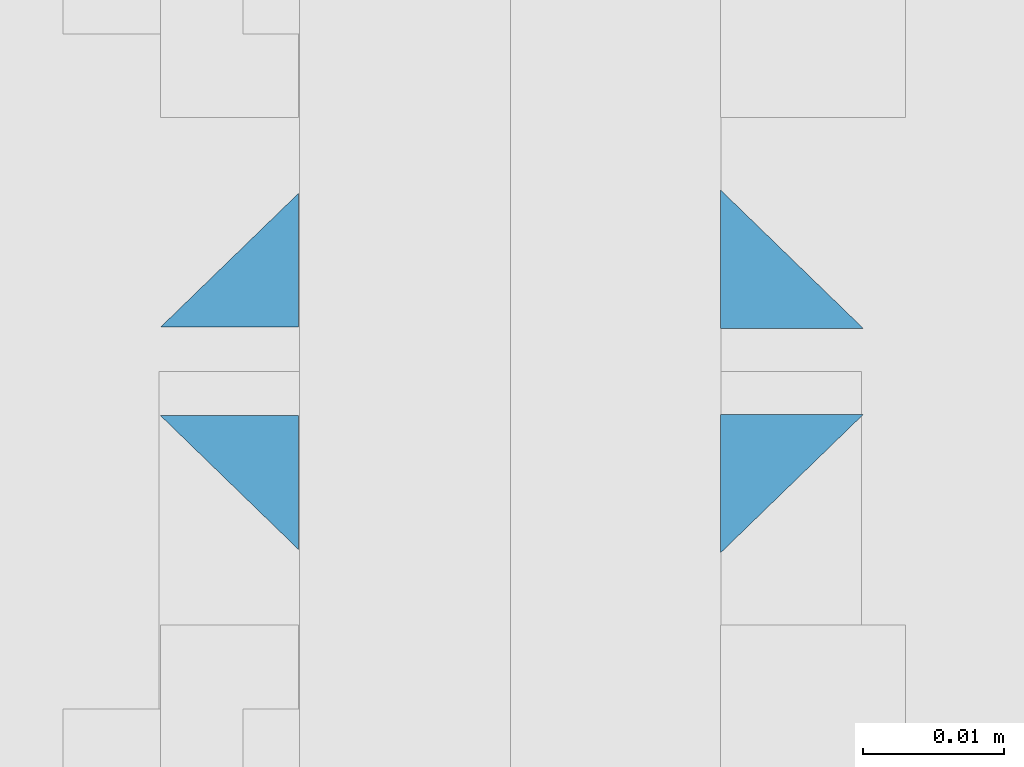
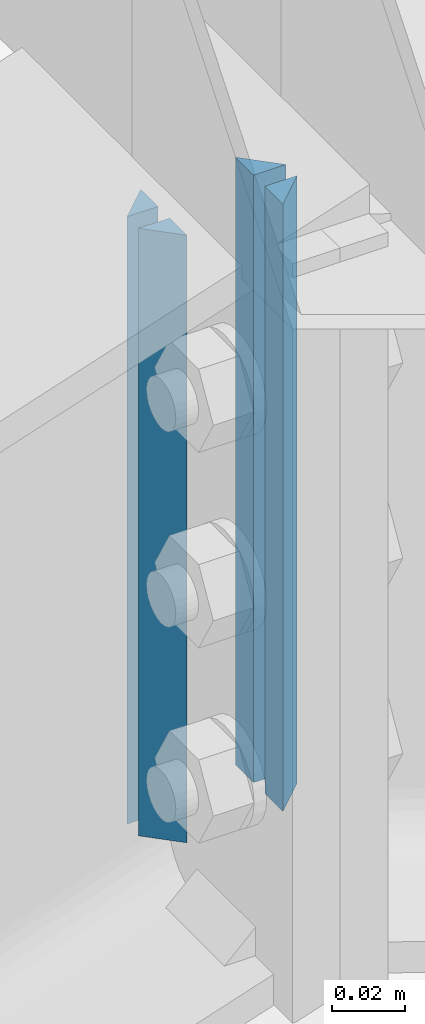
# One storey, part 11 of 53: 6 fasteners.
"""IFC4 building model written with IfcOpenShell, lengths in metres."""

from ifc_helpers import new_model, si_unit, frame, origin_with_axes, place, context, project, spatial, polyline, outline, extrude, type_object, element, save


model = new_model("IFC4")

# Units and contexts
model_context = context("Model", 3, precision=1e-05, world=origin_with_axes())
ifc_project = project(units=[si_unit("LENGTHUNIT", "METRE"), si_unit("AREAUNIT", "SQUARE_METRE"), si_unit("VOLUMEUNIT", "CUBIC_METRE"), si_unit("MASSUNIT", "GRAM", prefix="KILO"), si_unit("TIMEUNIT", "SECOND"), si_unit("PLANEANGLEUNIT", "RADIAN"), si_unit("SOLIDANGLEUNIT", "STERADIAN"), si_unit("THERMODYNAMICTEMPERATUREUNIT", "DEGREE_CELSIUS")], contexts=[model_context])

# Site, building, storey
placement_1 = place(None, origin_with_axes())
site = spatial("IfcSite", under=ifc_project, at=placement_1, Name="Italia", CompositionType="ELEMENT")
building = spatial("IfcBuilding", under=site, at=placement_1, Name="Capannone", CompositionType="ELEMENT")
storey_placement = place(None, frame((0.0, 0.0, 5.550000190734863), z_axis=(0.0, 0.0, 1.0), x_axis=(1.0, 0.0, 0.0)))
storey = spatial("IfcBuildingStorey", under=building, at=storey_placement, Name="Storey 1", CompositionType="ELEMENT", Elevation=5.550000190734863)

# Fasteners
fastener_type_1 = type_object("IfcFastenerType", Name="Collegamenti -1142_-1128 -1143_-1130 -1144_-1132 -1145_-1134 -1146_-1136 -1147_-1138", PredefinedType="WELD")
placement_2 = place(placement_1, origin_with_axes())
fastener_1_placement = place(placement_2, origin_with_axes())
element("IfcFastener", 1, at=fastener_1_placement, inside=storey, type_object=fastener_type_1, Name="Collegamenti -1142_-1128 -1143_-1130 -1144_-1132 -1145_-1134 -1146_-1136 -1147_-1138", context=model_context, shape_type="SweptSolid", body=[
    extrude(outline(polyline([(0.0, 0.0), (0.00986816, 0.0101738), (0.00986816, 0.0), (0.0, 0.0)])), frame((7.01495, -0.0129182, 8.07243), z_axis=(0.0, 0.0, -1.0), x_axis=(0.0, 1.0, 0.0)), (0.0, 0.0, 1.0), 0.202096),
])
fastener_type_2 = type_object("IfcFastenerType", Name="Collegamenti -1142_-1128 -1143_-1130 -1144_-1132 -1145_-1134 -1146_-1136 -1147_-1138", PredefinedType="WELD")
fastener_2_placement = place(placement_2, origin_with_axes())
element("IfcFastener", 2, at=fastener_2_placement, inside=storey, type_object=fastener_type_2, Name="Collegamenti -1142_-1128 -1143_-1130 -1144_-1132 -1145_-1134 -1146_-1136 -1147_-1138", context=model_context, shape_type="SweptSolid", body=[
    extrude(outline(polyline([(0.0, 0.0), (-0.00986816, -0.0101738), (-0.00986816, 0.0), (0.0, 0.0)])), frame((7.01495, 0.0129181, 7.87033), z_axis=(0.0, 0.0, 1.0), x_axis=(0.0, 1.0, 0.0)), (0.0, 0.0, 1.0), 0.202096),
])
fastener_type_3 = type_object("IfcFastenerType", Name="Collegamenti -1142_-1128 -1143_-1130 -1144_-1132 -1145_-1134 -1146_-1136 -1147_-1138", PredefinedType="WELD")
fastener_3_placement = place(placement_2, origin_with_axes())
element("IfcFastener", 3, at=fastener_3_placement, inside=storey, type_object=fastener_type_3, Name="Collegamenti -1142_-1128 -1143_-1130 -1144_-1132 -1145_-1134 -1146_-1136 -1147_-1138", context=model_context, shape_type="SweptSolid", body=[
    extrude(outline(polyline([(0.0, 0.0), (0.00986816, 0.0101738), (0.00986816, 0.0), (0.0, 0.0)])), frame((7.01495, -0.0129182, 8.07243), z_axis=(0.0, 0.0, -1.0), x_axis=(0.0, 1.0, 0.0)), (0.0, 0.0, 1.0), 0.202096),
])
fastener_type_4 = type_object("IfcFastenerType", Name="Collegamenti -1142_-1128 -1143_-1130 -1144_-1132 -1145_-1134 -1146_-1136 -1147_-1138", PredefinedType="WELD")
fastener_4_placement = place(placement_2, origin_with_axes())
element("IfcFastener", 4, at=fastener_4_placement, inside=storey, type_object=fastener_type_4, Name="Collegamenti -1142_-1128 -1143_-1130 -1144_-1132 -1145_-1134 -1146_-1136 -1147_-1138", context=model_context, shape_type="SweptSolid", body=[
    extrude(outline(polyline([(0.0, 0.0), (-0.00986816, -0.0101738), (-0.00986816, 0.0), (0.0, 0.0)])), frame((7.01495, 0.0129181, 7.87033), z_axis=(0.0, 0.0, 1.0), x_axis=(0.0, 1.0, 0.0)), (0.0, 0.0, 1.0), 0.202096),
])
fastener_type_5 = type_object("IfcFastenerType", Name="Collegamenti -1142_-1128 -1143_-1130 -1144_-1132 -1145_-1134 -1146_-1136 -1147_-1138", PredefinedType="WELD")
fastener_5_placement = place(placement_2, origin_with_axes())
element("IfcFastener", 5, at=fastener_5_placement, inside=storey, type_object=fastener_type_5, Name="Collegamenti -1142_-1128 -1143_-1130 -1144_-1132 -1145_-1134 -1146_-1136 -1147_-1138", context=model_context, shape_type="SweptSolid", body=[
    extrude(outline(polyline([(0.0, 0.0), (-0.00953184, 0.00982666), (-0.00953184, 0.0), (0.0, 0.0)])), frame((6.98495, 0.0126818, 7.87034), z_axis=(0.0, 0.0, 1.0), x_axis=(0.0, 1.0, 0.0)), (0.0, 0.0, 1.0), 0.202095),
])
fastener_type_6 = type_object("IfcFastenerType", Name="Collegamenti -1142_-1128 -1143_-1130 -1144_-1132 -1145_-1134 -1146_-1136 -1147_-1138", PredefinedType="WELD")
fastener_6_placement = place(placement_2, origin_with_axes())
element("IfcFastener", 6, at=fastener_6_placement, inside=storey, type_object=fastener_type_6, Name="Collegamenti -1142_-1128 -1143_-1130 -1144_-1132 -1145_-1134 -1146_-1136 -1147_-1138", context=model_context, shape_type="SweptSolid", body=[
    extrude(outline(polyline([(0.0, 0.0), (0.00953184, -0.00982666), (0.00953184, 0.0), (0.0, 0.0)])), frame((6.98495, -0.0126819, 8.07243), z_axis=(0.0, 0.0, -1.0), x_axis=(0.0, 1.0, 0.0)), (0.0, 0.0, 1.0), 0.202095),
])

save(model, "model.ifc")
